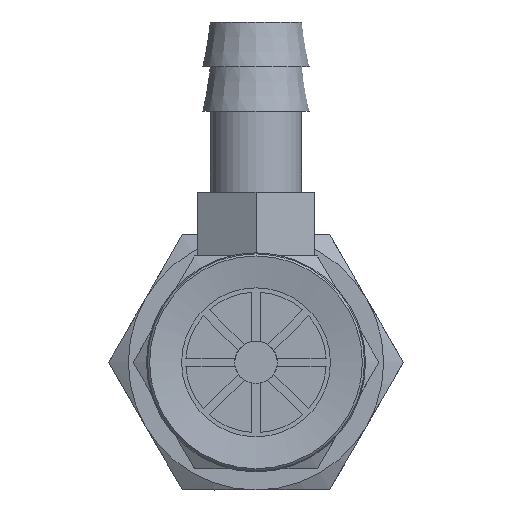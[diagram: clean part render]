
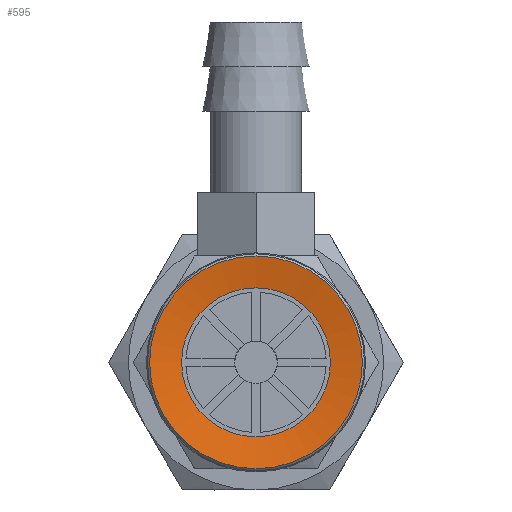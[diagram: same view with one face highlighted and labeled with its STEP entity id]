
A CAD part, front view. The second image highlights one B-rep face of the part: STEP entity #595.
In plain terms, the highlighted conical face has half-angle 80 degrees and reference radius 5 mm.
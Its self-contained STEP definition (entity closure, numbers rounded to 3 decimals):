
#595=ADVANCED_FACE('',(#966,#967),#968,.F.);
#966=FACE_BOUND('',#1371,.T.);
#967=FACE_OUTER_BOUND('',#1372,.T.);
#968=CONICAL_SURFACE('',#1373,5.0,1.396);
#1371=EDGE_LOOP('',(#2395));
#1372=EDGE_LOOP('',(#2396));
#1373=AXIS2_PLACEMENT_3D('',#2397,#2398,#2399);
#2395=ORIENTED_EDGE('',*,*,#2909,.T.);
#2396=ORIENTED_EDGE('',*,*,#2910,.F.);
#2397=CARTESIAN_POINT('',(0.0,0.,0.));
#2398=DIRECTION('',(0.0,0.,-1.0));
#2399=DIRECTION('',(0.0,1.0,0.));
#2909=EDGE_CURVE('',#3466,#3466,#3467,.T.);
#2910=EDGE_CURVE('',#3468,#3468,#3469,.T.);
#3466=VERTEX_POINT('',#4518);
#3467=CIRCLE('',#4519,3.5);
#3468=VERTEX_POINT('',#4520);
#3469=CIRCLE('',#4521,5.0);
#4518=CARTESIAN_POINT('',(0.0,-3.5,0.264));
#4519=AXIS2_PLACEMENT_3D('',#5062,#5063,#5064);
#4520=CARTESIAN_POINT('',(0.0,-5.0,0.));
#4521=AXIS2_PLACEMENT_3D('',#5065,#5066,#5067);
#5062=CARTESIAN_POINT('',(0.0,0.,0.264));
#5063=DIRECTION('',(0.0,0.,1.0));
#5064=DIRECTION('',(0.0,-1.0,0.));
#5065=CARTESIAN_POINT('',(0.0,0.,0.));
#5066=DIRECTION('',(0.0,0.,1.0));
#5067=DIRECTION('',(0.0,-1.0,0.));
